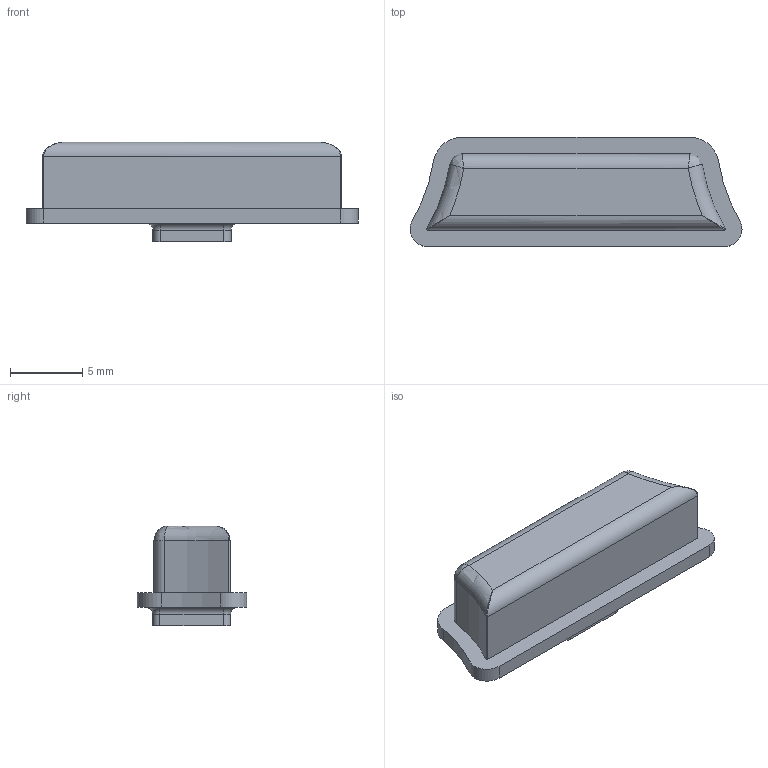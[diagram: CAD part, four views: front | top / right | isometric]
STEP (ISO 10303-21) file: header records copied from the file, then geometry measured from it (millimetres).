
FILE_DESCRIPTION(/* description */ (''),/* implementation_level */ '2;1');
FILE_NAME(/* name */ 'Exploiteers_Hacker_Pager_V107_Bottom_D_Pad_Button_step.stp',/* time_stamp */ '2026-06-11T15:12:59-04:00',/* author */ 'SGX',/* organization */ 'Exploiteers',/* preprocessor_version */ 'ST-DEVELOPER v20.1',/* originating_system */ 'Autodesk Translation Framework v15.8.0.0',/* authorisation */ '');
FILE_SCHEMA (('AUTOMOTIVE_DESIGN { 1 0 10303 214 3 1 1 }'));
Length unit declared in the file: millimetre
Products named in the file (1): Bottom_D_Pad_Button
Bounding box: 22.96 x 7.56 x 6.9 mm (x, y, z)
Volume: 634.6 mm3; surface area: 594.7 mm2
Topology: 1 solids, 1 shells, 44 faces, 104 edges, 60 vertices
Faces by surface type: cylinder 22, plane 12, torus 6, bspline 4
Entity records: 1451 total; most frequent: CARTESIAN_POINT 421, DIRECTION 220, ORIENTED_EDGE 200, EDGE_CURVE 100, AXIS2_PLACEMENT_3D 87, VERTEX_POINT 60, LINE 46, VECTOR 46
